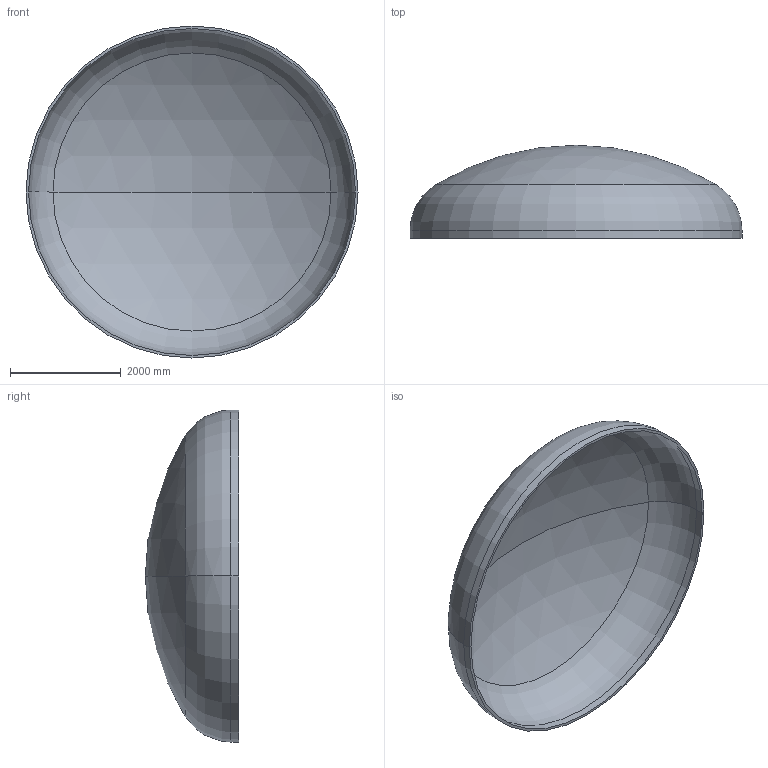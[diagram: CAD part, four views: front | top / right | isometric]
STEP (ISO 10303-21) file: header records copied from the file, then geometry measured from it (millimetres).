
FILE_DESCRIPTION (( 'STEP AP203' ), '1' );
FILE_NAME ('DIN 28013 Korbbogenform_-_Boden DIN 28013 - 6000 x 140 - I - s=46.step', '2016-07-04T10:37:13', ( '' ), ( '' ), 'SwSTEP 2.0', 'SolidWorks 2013', '' );
FILE_SCHEMA (( 'CONFIG_CONTROL_DESIGN' ));
Length unit declared in the file: millimetre
Products named in the file (1): DIN 28013 Korbbogenform_-_Boden DIN 28013 - 6000 x 140 - I - s=46
Bounding box: 6000 x 1684.67 x 6000 mm (x, y, z)
Volume: 1904022128.5 mm3; surface area: 83648403 mm2
Topology: 1 solids, 1 shells, 13 faces, 24 edges, 14 vertices
Faces by surface type: torus 4, cylinder 4, sphere 4, plane 1
Entity records: 407 total; most frequent: DIRECTION 72, CARTESIAN_POINT 52, ORIENTED_EDGE 48, AXIS2_PLACEMENT_3D 34, EDGE_CURVE 24, CIRCLE 20, EDGE_LOOP 14, VERTEX_POINT 14
